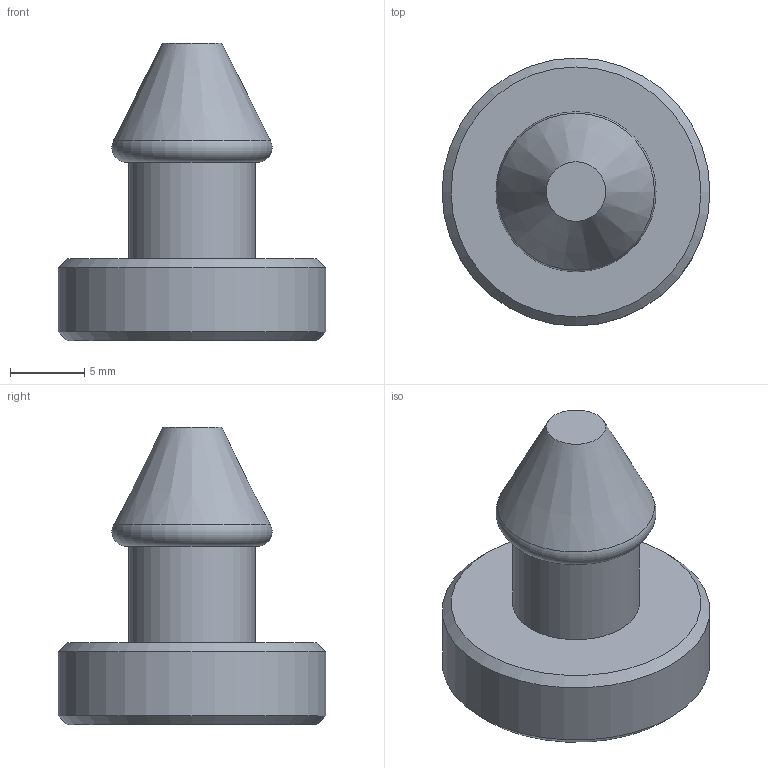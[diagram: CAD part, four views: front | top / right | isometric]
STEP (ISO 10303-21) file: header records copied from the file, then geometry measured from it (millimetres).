
FILE_DESCRIPTION(/* description */ ('Unknown'),/* implementation_level */ '2;1');
FILE_NAME(/* name */ '4xTPU',/* time_stamp */ '2022-12-25T12:24:20+01:00',/* author */ ('Unknown'),/* organization */ ('Unknown'),/* preprocessor_version */ 'ST-DEVELOPER v16.7',/* originating_system */ 'Solid Edge',/* authorisation */ 'Unknown');
FILE_SCHEMA (('AUTOMOTIVE_DESIGN {1 0 10303 214 3 1 1}'));
Length unit declared in the file: millimetre
Products named in the file (1): Gummifuss
Bounding box: 18 x 18 x 20 mm (x, y, z)
Volume: 2163.6 mm3; surface area: 1144.8 mm2
Topology: 1 solids, 1 shells, 10 faces, 17 edges, 11 vertices
Faces by surface type: plane 4, cone 3, cylinder 2, torus 1
Full cylindrical faces by diameter (mm): 8.5 x1, 18 x1
Entity records: 224 total; most frequent: DIRECTION 40, CARTESIAN_POINT 29, AXIS2_PLACEMENT_3D 20, ORIENTED_EDGE 18, EDGE_LOOP 18, FACE_BOUND 18, ADVANCED_FACE 10, EDGE_CURVE 9
